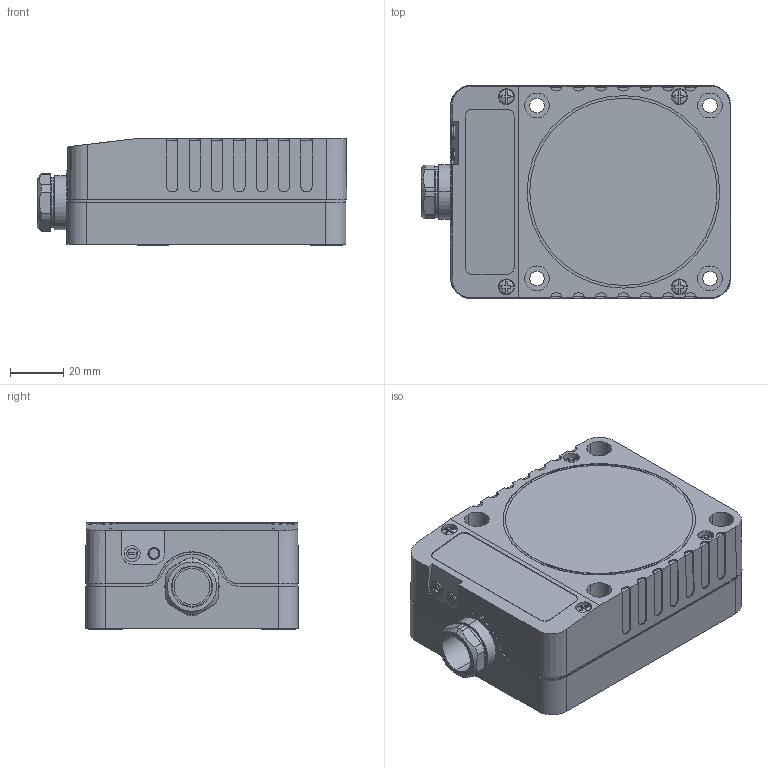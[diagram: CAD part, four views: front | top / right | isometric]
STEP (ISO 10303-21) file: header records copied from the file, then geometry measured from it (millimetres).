
FILE_DESCRIPTION( ( '' ), '1' );
FILE_NAME( '//partserver001.servicenet/client_exchange/iodir/jobs/output/wkb15102344_no4/STEP/kd0009_2_03.stp', '2009-03-17T05:43:49', ( '' ), ( '' ), ' ', ' ', ' ' );
FILE_SCHEMA( ( 'CONFIG_CONTROL_DESIGN' ) );
Length unit declared in the file: millimetre
Products named in the file (1): 1
Bounding box: 116.35 x 80 x 40 mm (x, y, z)
Volume: 283814.9 mm3; surface area: 51957.6 mm2
Topology: 1 solids, 1 shells, 515 faces, 1349 edges, 883 vertices
Faces by surface type: plane 258, cylinder 195, cone 38, sphere 18, torus 6
Entity records: 15998 total; most frequent: DIRECTION 2896, CARTESIAN_POINT 2770, ORIENTED_EDGE 2694, EDGE_CURVE 1347, AXIS2_PLACEMENT_3D 1045, VERTEX_POINT 883, LINE 806, VECTOR 806
